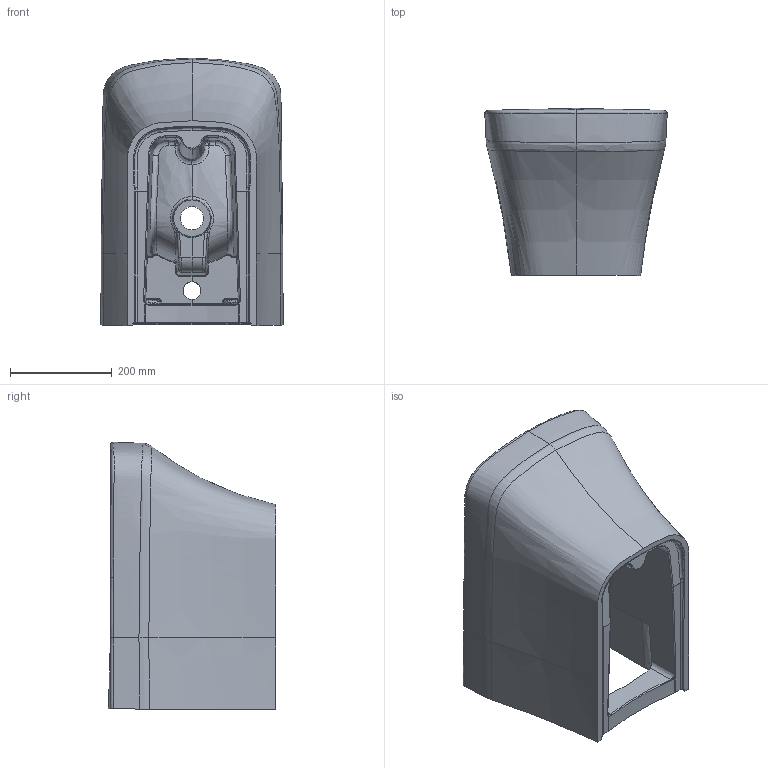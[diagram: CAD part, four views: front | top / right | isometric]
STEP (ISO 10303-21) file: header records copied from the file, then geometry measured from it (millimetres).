
FILE_DESCRIPTION (( 'STEP AP203' ), '1' );
FILE_NAME ('SO510-00CB00E-0000.STEP', '2022-04-11T13:30:33', ( '' ), ( '' ), 'SwSTEP 2.0', 'SolidWorks 2021', '' );
FILE_SCHEMA (( 'CONFIG_CONTROL_DESIGN' ));
Length unit declared in the file: millimetre
Products named in the file (1): SO510-00CB00E-0000
Bounding box: 359.37 x 329.1 x 526.3 mm (x, y, z)
Volume: 17697427.4 mm3; surface area: 1481637.2 mm2
Topology: 2 solids, 5 shells, 701 faces, 1678 edges, 959 vertices
Faces by surface type: bspline 477, cylinder 95, plane 80, sphere 29, cone 15, torus 5
Entity records: 228359 total; most frequent: CARTESIAN_POINT 216310, ORIENTED_EDGE 3264, EDGE_CURVE 1632, DIRECTION 1287, B_SPLINE_CURVE_WITH_KNOTS 1033, VERTEX_POINT 955, EDGE_LOOP 715, ADVANCED_FACE 697
